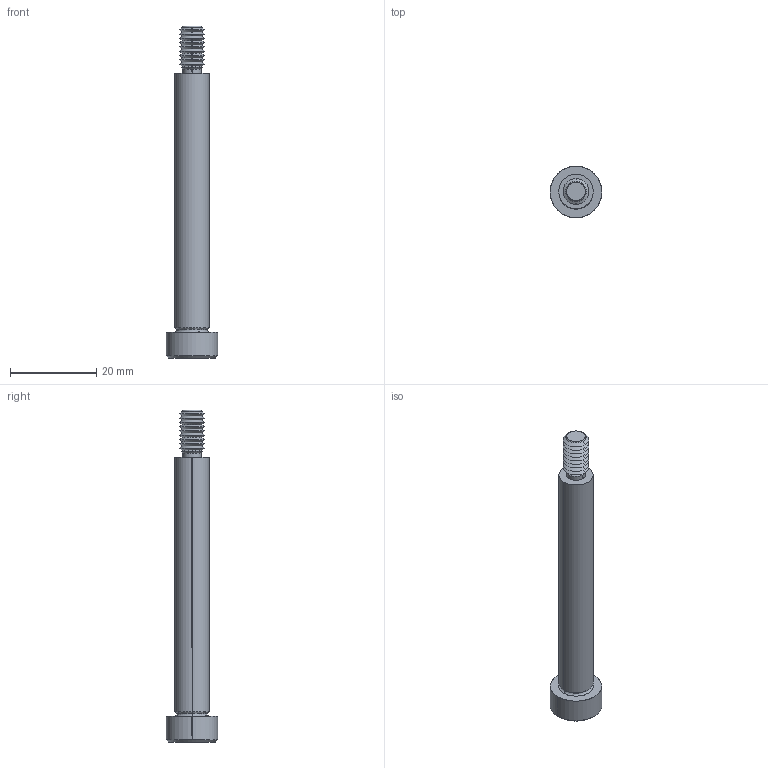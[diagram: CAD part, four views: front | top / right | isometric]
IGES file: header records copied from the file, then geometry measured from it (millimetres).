
Start section: SolidWorks IGES file using analytic representation for surfaces
Global section: file name: C:\Users\IanO\Documents\Temp Folder\GENERAL\SCREW REVISION\P0130_v2\P0130.T5_v2_20220106_IGES\P0130.080-060-T5.igs; native system: SolidWorks 2019; preprocessor: SolidWorks 2019; author: IanO; date: 220106.223730; units: millimetre
Bounding box: 12 x 12 x 77 mm (x, y, z)
Surface area: 2344.2 mm2 (no closed solid volume)
Topology: 0 solids, 0 shells, 80 faces, 580 edges, 578 vertices
Faces by surface type: revolution 60, bspline 20
